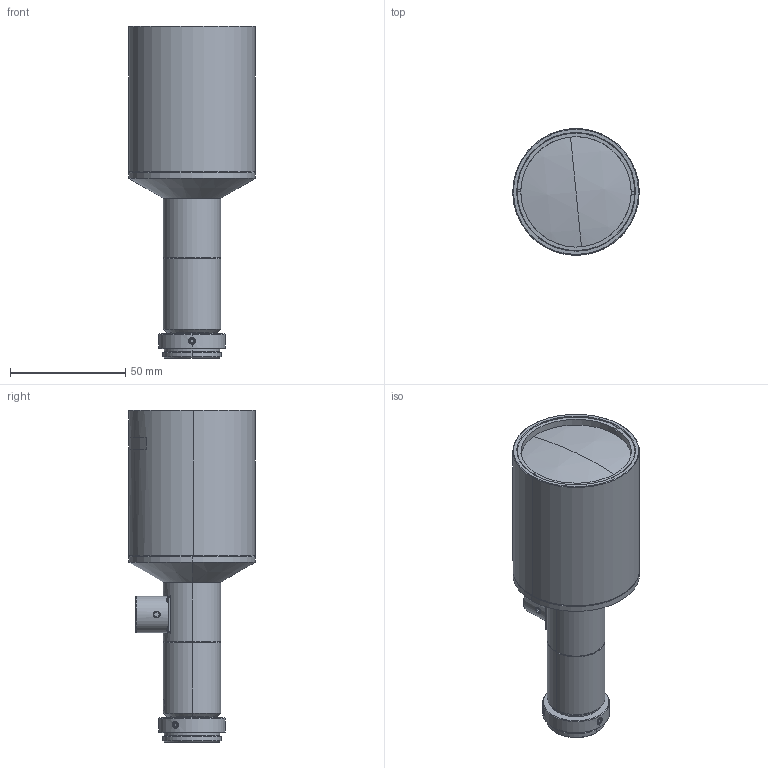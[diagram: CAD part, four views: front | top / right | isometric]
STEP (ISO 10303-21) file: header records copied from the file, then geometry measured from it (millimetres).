
FILE_DESCRIPTION (( 'STEP AP214' ), '1' );
FILE_NAME ('TEC-M03110MPC_210311.STEP', '2021-03-15T02:03:01', ( '' ), ( '' ), 'SwSTEP 2.0', 'SolidWorks 2019', '' );
FILE_SCHEMA (( 'AUTOMOTIVE_DESIGN' ));
Length unit declared in the file: millimetre
Products named in the file (1): TEC-M03110MPC_210311
Bounding box: 55 x 55 x 144.3 mm (x, y, z)
Volume: 73106.5 mm3; surface area: 54821.7 mm2
Topology: 21 solids, 21 shells, 633 faces, 1440 edges, 888 vertices
Faces by surface type: plane 233, cone 182, cylinder 178, sphere 16, torus 16, bspline 8
Entity records: 26531 total; most frequent: CARTESIAN_POINT 4708, DIRECTION 3285, ORIENTED_EDGE 2864, EDGE_CURVE 1432, AXIS2_PLACEMENT_3D 1326, VERTEX_POINT 888, EDGE_LOOP 718, CIRCLE 700
